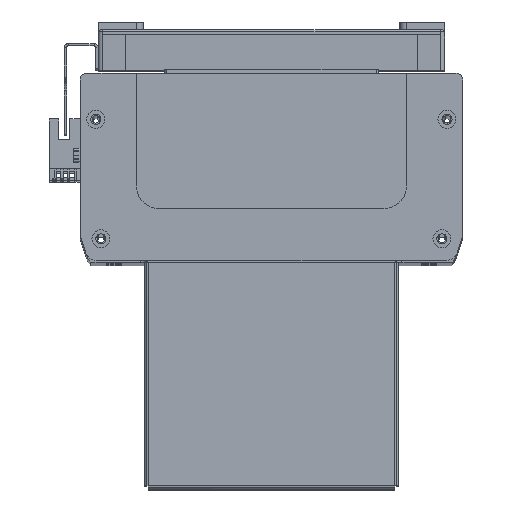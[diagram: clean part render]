
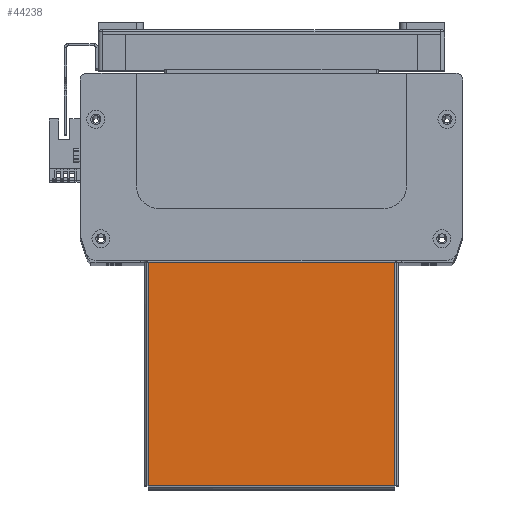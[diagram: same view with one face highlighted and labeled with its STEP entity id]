
A CAD part, top view. The second image highlights one B-rep face of the part: STEP entity #44238.
In plain terms, the highlighted planar face has unit normal (0, 0, 1).
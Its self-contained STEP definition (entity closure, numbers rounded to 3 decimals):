
#2738 = EDGE_CURVE ( 'NONE', #30428, #30454, #19462, .T. ) ;
#2752 = EDGE_CURVE ( 'NONE', #30363, #30419, #19508, .T. ) ;
#2868 = EDGE_CURVE ( 'NONE', #30419, #30428, #19569, .T. ) ;
#2872 = EDGE_CURVE ( 'NONE', #30454, #30363, #19552, .T. ) ;
#5265 = CARTESIAN_POINT ( 'NONE',  ( 54.763, -49.263, 0. ) ) ;
#5333 = CARTESIAN_POINT ( 'NONE',  ( 54.763, 50., 0. ) ) ;
#5380 = CARTESIAN_POINT ( 'NONE',  ( -54.763, -49.263, 0. ) ) ;
#5391 = CARTESIAN_POINT ( 'NONE',  ( -54.763, 50., 0. ) ) ;
#8013 = ORIENTED_EDGE ( 'NONE', *, *, #2752, .T. ) ;
#8041 = ORIENTED_EDGE ( 'NONE', *, *, #2738, .T. ) ;
#8086 = ORIENTED_EDGE ( 'NONE', *, *, #2872, .T. ) ;
#8126 = ORIENTED_EDGE ( 'NONE', *, *, #2868, .T. ) ;
#11280 = EDGE_LOOP ( 'NONE', ( #8041, #8086, #8013, #8126 ) ) ;
#16861 = PLANE ( 'NONE',  #27939 ) ;
#16864 = CARTESIAN_POINT ( 'NONE',  ( 0., 0., 0. ) ) ;
#16866 = DIRECTION ( 'NONE',  ( 0., 0., 1. ) ) ;
#16885 = DIRECTION ( 'NONE',  ( 1., 0., 0. ) ) ;
#19462 = LINE ( 'NONE', #48779, #19464 ) ;
#19464 = VECTOR ( 'NONE', #48791, 1000. ) ;
#19508 = LINE ( 'NONE', #48861, #19529 ) ;
#19529 = VECTOR ( 'NONE', #48853, 1000. ) ;
#19552 = LINE ( 'NONE', #48952, #19577 ) ;
#19569 = LINE ( 'NONE', #48966, #19573 ) ;
#19573 = VECTOR ( 'NONE', #48977, 1000. ) ;
#19577 = VECTOR ( 'NONE', #48962, 1000. ) ;
#27939 = AXIS2_PLACEMENT_3D ( 'NONE', #16864, #16866, #16885 ) ;
#30363 = VERTEX_POINT ( 'NONE', #5265 ) ;
#30419 = VERTEX_POINT ( 'NONE', #5333 ) ;
#30428 = VERTEX_POINT ( 'NONE', #5391 ) ;
#30454 = VERTEX_POINT ( 'NONE', #5380 ) ;
#43685 = FACE_OUTER_BOUND ( 'NONE', #11280, .T. ) ;
#44238 = ADVANCED_FACE ( 'NONE', ( #43685 ), #16861, .T. ) ;
#48779 = CARTESIAN_POINT ( 'NONE',  ( -54.763, 50., 0. ) ) ;
#48791 = DIRECTION ( 'NONE',  ( 0., -1., 0. ) ) ;
#48853 = DIRECTION ( 'NONE',  ( 0., 1., 0. ) ) ;
#48861 = CARTESIAN_POINT ( 'NONE',  ( 54.763, -49.293, 0. ) ) ;
#48952 = CARTESIAN_POINT ( 'NONE',  ( -54.793, -49.263, 0. ) ) ;
#48962 = DIRECTION ( 'NONE',  ( 1., 0., 0. ) ) ;
#48966 = CARTESIAN_POINT ( 'NONE',  ( -55.5, 50., 0. ) ) ;
#48977 = DIRECTION ( 'NONE',  ( -1., 0., 0. ) ) ;
